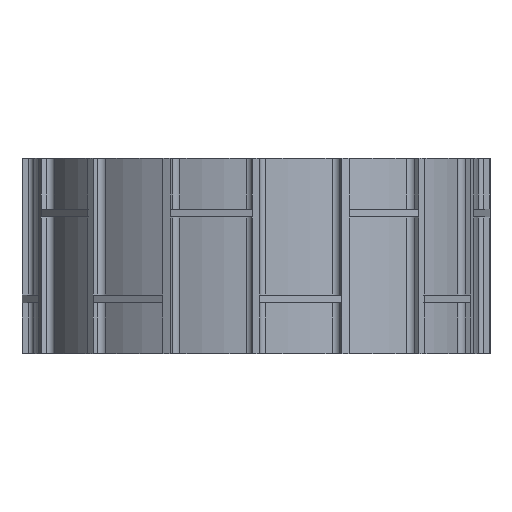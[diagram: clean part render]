
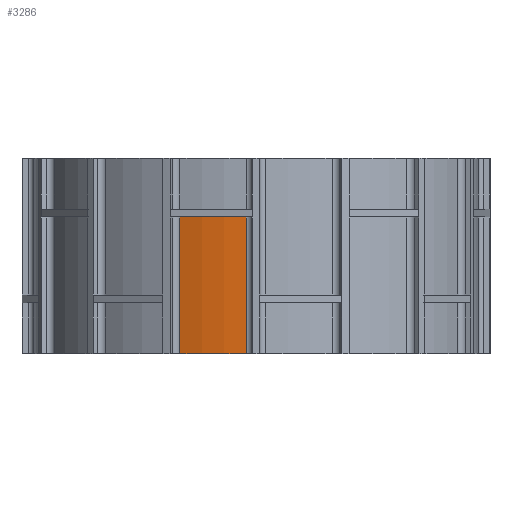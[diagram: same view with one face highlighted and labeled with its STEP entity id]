
A CAD part, front view. The second image highlights one B-rep face of the part: STEP entity #3286.
In plain terms, the highlighted cylindrical face has radius 57 mm (diameter 114 mm), a partial arc.
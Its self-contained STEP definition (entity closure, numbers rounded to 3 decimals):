
#110 = DIRECTION ( 'NONE',  ( 0., 0., 1. ) ) ;
#177 = CARTESIAN_POINT ( 'NONE',  ( 0., 0., 0. ) ) ;
#225 = ORIENTED_EDGE ( 'NONE', *, *, #8090, .F. ) ;
#373 = VERTEX_POINT ( 'NONE', #10234 ) ;
#812 = DIRECTION ( 'NONE',  ( 0., 0., 1. ) ) ;
#1205 = LINE ( 'NONE', #13078, #6398 ) ;
#1655 = CIRCLE ( 'NONE', #7297, 57. ) ;
#2397 = VERTEX_POINT ( 'NONE', #15009 ) ;
#2931 = VERTEX_POINT ( 'NONE', #3178 ) ;
#2938 = CARTESIAN_POINT ( 'NONE',  ( 0., 0., 50. ) ) ;
#3015 = EDGE_CURVE ( 'NONE', #373, #2397, #3074, .T. ) ;
#3074 = CIRCLE ( 'NONE', #10163, 57. ) ;
#3178 = CARTESIAN_POINT ( 'NONE',  ( -19.543, -53.545, 35. ) ) ;
#3286 = ADVANCED_FACE ( 'NONE', ( #15104 ), #13797, .T. ) ;
#3296 = DIRECTION ( 'NONE',  ( -1., 0., 0. ) ) ;
#3370 = VECTOR ( 'NONE', #812, 1000. ) ;
#3571 = DIRECTION ( 'NONE',  ( 0., 0., 1. ) ) ;
#3624 = DIRECTION ( 'NONE',  ( 1., 0., 0. ) ) ;
#3691 = VERTEX_POINT ( 'NONE', #10164 ) ;
#4655 = ORIENTED_EDGE ( 'NONE', *, *, #9955, .F. ) ;
#4963 = EDGE_CURVE ( 'NONE', #2397, #3691, #1205, .T. ) ;
#5281 = AXIS2_PLACEMENT_3D ( 'NONE', #2938, #7975, #3296 ) ;
#5402 = LINE ( 'NONE', #10226, #3370 ) ;
#5418 = ORIENTED_EDGE ( 'NONE', *, *, #3015, .T. ) ;
#6315 = DIRECTION ( 'NONE',  ( 0., 0., 1. ) ) ;
#6398 = VECTOR ( 'NONE', #3571, 1000. ) ;
#7150 = ORIENTED_EDGE ( 'NONE', *, *, #4963, .T. ) ;
#7297 = AXIS2_PLACEMENT_3D ( 'NONE', #7620, #6315, #12214 ) ;
#7620 = CARTESIAN_POINT ( 'NONE',  ( 0., 0., 35. ) ) ;
#7975 = DIRECTION ( 'NONE',  ( 0., 0., -1. ) ) ;
#8090 = EDGE_CURVE ( 'NONE', #2931, #3691, #1655, .T. ) ;
#9955 = EDGE_CURVE ( 'NONE', #373, #2931, #5402, .T. ) ;
#10163 = AXIS2_PLACEMENT_3D ( 'NONE', #177, #110, #3624 ) ;
#10164 = CARTESIAN_POINT ( 'NONE',  ( -2.436, -56.948, 35. ) ) ;
#10226 = CARTESIAN_POINT ( 'NONE',  ( -19.543, -53.545, -6.107 ) ) ;
#10234 = CARTESIAN_POINT ( 'NONE',  ( -19.543, -53.545, 0. ) ) ;
#12214 = DIRECTION ( 'NONE',  ( -1., 0., 0. ) ) ;
#13078 = CARTESIAN_POINT ( 'NONE',  ( -2.436, -56.948, -5.749 ) ) ;
#13204 = EDGE_LOOP ( 'NONE', ( #7150, #225, #4655, #5418 ) ) ;
#13797 = CYLINDRICAL_SURFACE ( 'NONE', #5281, 57. ) ;
#15009 = CARTESIAN_POINT ( 'NONE',  ( -2.436, -56.948, 0. ) ) ;
#15104 = FACE_OUTER_BOUND ( 'NONE', #13204, .T. ) ;
